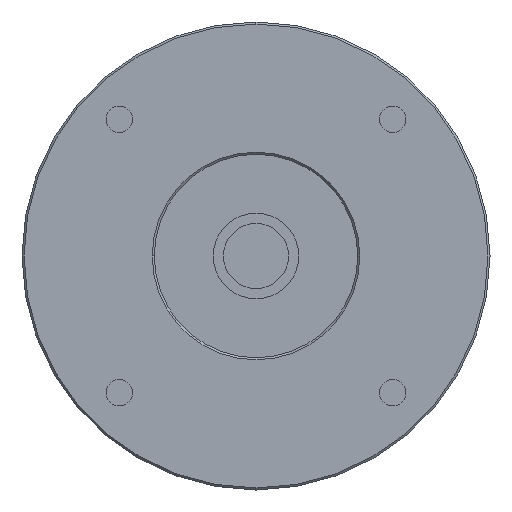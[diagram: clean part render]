
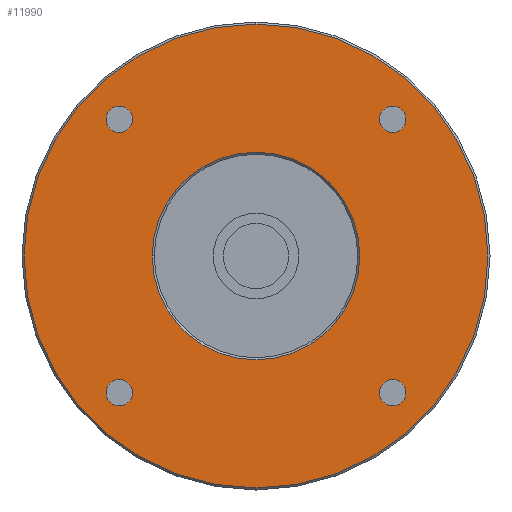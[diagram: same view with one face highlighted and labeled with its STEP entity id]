
A CAD part, left-side view. The second image highlights one B-rep face of the part: STEP entity #11990.
In plain terms, the highlighted planar face has unit normal (-1, 0, 0) as drawn and (0, 0, -1) by its records, which use the part's own axes.
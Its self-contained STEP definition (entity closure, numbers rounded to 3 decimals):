
#8800=CARTESIAN_POINT('',(36.838,33.588,-47.));
#8810=VERTEX_POINT('',#8800);
#8840=CARTESIAN_POINT('',(33.588,33.588,-47.));
#8850=DIRECTION('',(0.,0.,-1.));
#8860=DIRECTION('',(1.,0.,0.));
#8870=AXIS2_PLACEMENT_3D('',#8840,#8850,#8860);
#8880=CIRCLE('',#8870,3.25);
#8890=CARTESIAN_POINT('',(30.338,33.588,-47.));
#8900=VERTEX_POINT('',#8890);
#8910=EDGE_CURVE('',#8900,#8810,#8880,.T.);
#9220=CARTESIAN_POINT('',(-30.338,-33.588,-47.));
#9230=VERTEX_POINT('',#9220);
#9260=CARTESIAN_POINT('',(-33.588,-33.588,-47.));
#9270=DIRECTION('',(0.,0.,-1.));
#9280=DIRECTION('',(1.,0.,0.));
#9290=AXIS2_PLACEMENT_3D('',#9260,#9270,#9280);
#9300=CIRCLE('',#9290,3.25);
#9310=CARTESIAN_POINT('',(-36.838,-33.588,-47.));
#9320=VERTEX_POINT('',#9310);
#9330=EDGE_CURVE('',#9320,#9230,#9300,.T.);
#11060=CARTESIAN_POINT('',(0.,57.,-47.));
#11070=VERTEX_POINT('',#11060);
#11100=CARTESIAN_POINT('',(0.,0.,
-47.));
#11110=DIRECTION('',(0.,0.,-1.));
#11120=DIRECTION('',(1.,0.,0.));
#11130=AXIS2_PLACEMENT_3D('',#11100,#11110,#11120);
#11140=CIRCLE('',#11130,57.);
#11150=CARTESIAN_POINT('',(57.,0.,-47.));
#11160=VERTEX_POINT('',#11150);
#11170=EDGE_CURVE('',#11070,#11160,#11140,.T.);
#11190=CARTESIAN_POINT('',(0.,-57.,-47.));
#11200=VERTEX_POINT('',#11190);
#11210=EDGE_CURVE('',#11160,#11200,#11140,.T.);
#11330=CARTESIAN_POINT('',(0.,0.,
-47.));
#11340=DIRECTION('',(0.,0.,-1.));
#11350=DIRECTION('',(1.,0.,0.));
#11360=AXIS2_PLACEMENT_3D('',#11330,#11340,#11350);
#11370=PLANE('',#11360);
#11380=EDGE_CURVE('',#11200,#11070,#11140,.T.);
#11390=ORIENTED_EDGE('',*,*,#11380,.T.);
#11400=ORIENTED_EDGE('',*,*,#11210,.T.);
#11410=ORIENTED_EDGE('',*,*,#11170,.T.);
#11420=EDGE_LOOP('',(#11410,#11400,#11390));
#11430=FACE_OUTER_BOUND('',#11420,.T.);
#11440=CARTESIAN_POINT('',(0.,0.,
-47.));
#11450=DIRECTION('',(0.,0.,-1.));
#11460=DIRECTION('',(1.,0.,0.));
#11470=AXIS2_PLACEMENT_3D('',#11440,#11450,#11460);
#11480=CIRCLE('',#11470,25.5);
#11490=CARTESIAN_POINT('',(25.5,0.,-47.));
#11500=VERTEX_POINT('',#11490);
#11510=CARTESIAN_POINT('',(-25.5,0.,-47.));
#11520=VERTEX_POINT('',#11510);
#11530=EDGE_CURVE('',#11500,#11520,#11480,.T.);
#11540=ORIENTED_EDGE('',*,*,#11530,.F.);
#11550=EDGE_CURVE('',#11520,#11500,#11480,.T.);
#11560=ORIENTED_EDGE('',*,*,#11550,.F.);
#11570=EDGE_LOOP('',(#11560,#11540));
#11580=FACE_BOUND('',#11570,.T.);
#11590=CARTESIAN_POINT('',(33.588,-33.588,-47.));
#11600=DIRECTION('',(0.,0.,-1.));
#11610=DIRECTION('',(1.,0.,0.));
#11620=AXIS2_PLACEMENT_3D('',#11590,#11600,#11610);
#11630=CIRCLE('',#11620,3.25);
#11640=CARTESIAN_POINT('',(36.838,-33.588,-47.));
#11650=VERTEX_POINT('',#11640);
#11660=CARTESIAN_POINT('',(30.338,-33.588,-47.));
#11670=VERTEX_POINT('',#11660);
#11680=EDGE_CURVE('',#11650,#11670,#11630,.T.);
#11690=ORIENTED_EDGE('',*,*,#11680,.F.);
#11700=EDGE_CURVE('',#11670,#11650,#11630,.T.);
#11710=ORIENTED_EDGE('',*,*,#11700,.F.);
#11720=EDGE_LOOP('',(#11710,#11690));
#11730=FACE_BOUND('',#11720,.T.);
#11740=EDGE_CURVE('',#8810,#8900,#8880,.T.);
#11750=ORIENTED_EDGE('',*,*,#11740,.F.);
#11760=ORIENTED_EDGE('',*,*,#8910,.F.);
#11770=EDGE_LOOP('',(#11760,#11750));
#11780=FACE_BOUND('',#11770,.T.);
#11790=CARTESIAN_POINT('',(-33.588,33.588,-47.));
#11800=DIRECTION('',(0.,0.,-1.));
#11810=DIRECTION('',(1.,0.,0.));
#11820=AXIS2_PLACEMENT_3D('',#11790,#11800,#11810);
#11830=CIRCLE('',#11820,3.25);
#11840=CARTESIAN_POINT('',(-30.338,33.588,-47.));
#11850=VERTEX_POINT('',#11840);
#11860=CARTESIAN_POINT('',(-36.838,33.588,-47.));
#11870=VERTEX_POINT('',#11860);
#11880=EDGE_CURVE('',#11850,#11870,#11830,.T.);
#11890=ORIENTED_EDGE('',*,*,#11880,.F.);
#11900=EDGE_CURVE('',#11870,#11850,#11830,.T.);
#11910=ORIENTED_EDGE('',*,*,#11900,.F.);
#11920=EDGE_LOOP('',(#11910,#11890));
#11930=FACE_BOUND('',#11920,.T.);
#11940=EDGE_CURVE('',#9230,#9320,#9300,.T.);
#11950=ORIENTED_EDGE('',*,*,#11940,.F.);
#11960=ORIENTED_EDGE('',*,*,#9330,.F.);
#11970=EDGE_LOOP('',(#11960,#11950));
#11980=FACE_BOUND('',#11970,.T.);
#11990=ADVANCED_FACE('',(#11430,#11580,#11730,#11780,#11930,#11980),
#11370,.T.);
